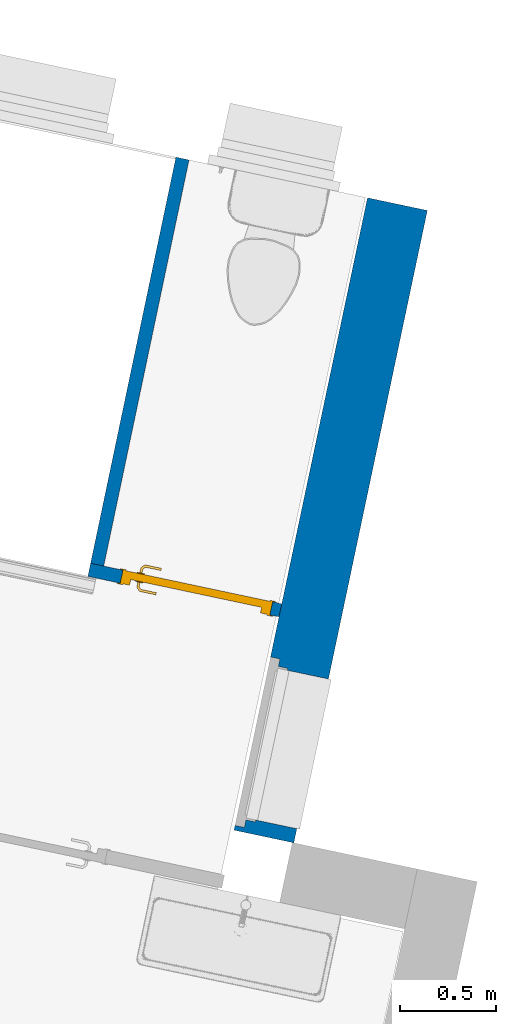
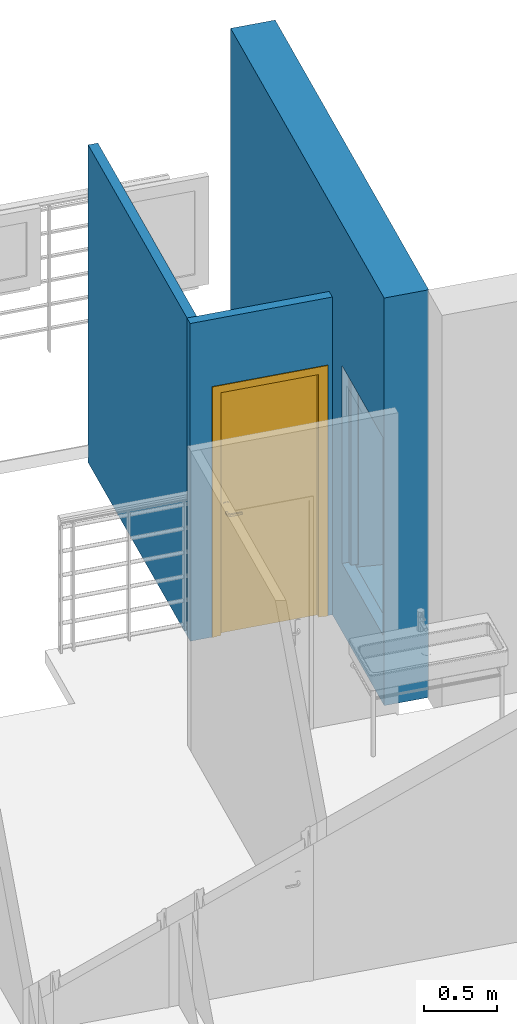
# One storey, part 10 of 18: 3 walls, 1 door, 2 openings.
"""IFC2X3 building model written with IfcOpenShell, lengths in metres."""

from ifc_helpers import new_model, entity, si_unit, converted_unit, derived_unit, direction, frame, frame_2d, origin, place, context, subcontext, project, spatial, polyline, rectangle, outline, extrude, faceted_brep, source, transform, mapped, material, material_list, layer, layer_set, layer_usage, type_object, type_shapes, element, fill, save


model = new_model("IFC2X3")

# Units and contexts
model_context = context("Model", 3, precision=1e-05, world=origin(), true_north=direction((6.12303176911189e-17, 1.0)))
body_context = subcontext(model_context, "Body", "Model", "MODEL_VIEW")
ifc_project = project(units=[si_unit("LENGTHUNIT", "METRE"), si_unit("AREAUNIT", "SQUARE_METRE"), si_unit("VOLUMEUNIT", "CUBIC_METRE"), converted_unit("PLANEANGLEUNIT", "DEGREE", entity("IfcRatioMeasure", 0.0174532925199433), si_unit("PLANEANGLEUNIT", "RADIAN"), dimensions=[0, 0, 0, 0, 0, 0, 0]), si_unit("MASSUNIT", "GRAM", prefix="KILO"), derived_unit("MASSDENSITYUNIT", [(si_unit("MASSUNIT", "GRAM", prefix="KILO"), 1), (si_unit("LENGTHUNIT", "METRE"), -3)]), si_unit("TIMEUNIT", "SECOND"), si_unit("FREQUENCYUNIT", "HERTZ"), si_unit("THERMODYNAMICTEMPERATUREUNIT", "DEGREE_CELSIUS"), derived_unit("THERMALTRANSMITTANCEUNIT", [(si_unit("MASSUNIT", "GRAM", prefix="KILO"), 1), (si_unit("THERMODYNAMICTEMPERATUREUNIT", "KELVIN"), -1), (si_unit("TIMEUNIT", "SECOND"), -3)]), derived_unit("VOLUMETRICFLOWRATEUNIT", [(si_unit("LENGTHUNIT", "METRE"), 3), (si_unit("TIMEUNIT", "SECOND"), -1)]), si_unit("ELECTRICCURRENTUNIT", "AMPERE"), si_unit("ELECTRICVOLTAGEUNIT", "VOLT"), si_unit("POWERUNIT", "WATT"), si_unit("FORCEUNIT", "NEWTON", prefix="KILO"), si_unit("ILLUMINANCEUNIT", "LUX"), si_unit("LUMINOUSFLUXUNIT", "LUMEN"), si_unit("LUMINOUSINTENSITYUNIT", "CANDELA"), derived_unit("USERDEFINED", [(si_unit("MASSUNIT", "GRAM", prefix="KILO"), -1), (si_unit("LENGTHUNIT", "METRE"), -2), (si_unit("TIMEUNIT", "SECOND"), 3), (si_unit("LUMINOUSFLUXUNIT", "LUMEN"), 1)]), derived_unit("LINEARVELOCITYUNIT", [(si_unit("LENGTHUNIT", "METRE"), 1), (si_unit("TIMEUNIT", "SECOND"), -1)]), si_unit("PRESSUREUNIT", "PASCAL"), derived_unit("USERDEFINED", [(si_unit("LENGTHUNIT", "METRE"), -2), (si_unit("MASSUNIT", "GRAM", prefix="KILO"), 1), (si_unit("TIMEUNIT", "SECOND"), -2)])], contexts=[model_context])

# Site, building, storey
site_placement = place(None, origin())
site = spatial("IfcSite", under=ifc_project, at=site_placement, Name="Default", CompositionType="ELEMENT")
building_placement = place(site_placement, origin())
building = spatial("IfcBuilding", under=site, at=building_placement, CompositionType="ELEMENT")
storey_placement = place(building_placement, frame((0.0, 0.0, 2.8)))
storey = spatial("IfcBuildingStorey", under=building, at=storey_placement, Name="ETAGE", CompositionType="ELEMENT", Elevation=2.8)

# Wall, opening
ifc_material_1 = material(Name="Enduit blanc cassé2")
ifc_layer_1 = layer(ifc_material_1, 0.02)
ifc_material_2 = material(Name="Parpaing")
ifc_layer_2 = layer(ifc_material_2, 0.2)
ifc_material_3 = material(Name="Isolant")
ifc_layer_3 = layer(ifc_material_3, 0.1)
ifc_layer_set_1 = layer_set([ifc_layer_1, ifc_layer_2, ifc_layer_3], Name="Mur de base:Ext. Parpaing 20 + Isolant 10 enduit blanc cassé")
ifc_layer_usage_1 = layer_usage(ifc_layer_set_1, "AXIS2", "NEGATIVE", 0.16)
wall_type_1 = type_object("IfcWallType", Name="Mur de base:Ext. Parpaing 20 + Isolant 10 enduit blanc cassé", PredefinedType="STANDARD", material=ifc_layer_set_1)
wall_1_placement = place(storey_placement, frame((-10.4845633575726, 84.9766816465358, 0.0), z_axis=(0.0, 0.0, 1.0), x_axis=(-0.206544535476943, -0.978437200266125, 0.0)))
wall_1 = element("IfcWallStandardCase", 1, at=wall_1_placement, inside=storey, type_object=wall_type_1, material=ifc_layer_usage_1, Name="Mur de base:Ext. Parpaing 20 + Isolant 10 enduit blanc cassé", ObjectType="Mur de base:Ext. Parpaing 20 + Isolant 10 enduit blanc cassé", context=body_context, shape_type="SweptSolid", body=[
    extrude(outline(polyline([(3.38000155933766, -0.159999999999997), (3.38030079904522, 0.151524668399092), (3.38030894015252, 0.16), (0.000307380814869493, 0.160000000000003), (0.0, -0.159999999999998), (3.38000155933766, -0.159999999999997)])), origin(), (0.0, 0.0, 1.0), 3.4),
])
opening_1_placement = place(wall_1_placement, frame((3.50668078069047, -0.457339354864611, 0.494039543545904), z_axis=(0.0, 0.0, 1.0), x_axis=(-0.206544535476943, 0.978437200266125, 0.0)))
element("IfcOpeningElement", 2, at=opening_1_placement, cuts=wall_1, Name="Mur de base:Ext. Parpaing 20 + Isolant 10 enduit blanc cassé", ObjectType="Opening", context=body_context, shape_type="Brep", body=[
    faceted_brep([(0.576179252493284, 0.902545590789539, 0.0759604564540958), (0.595747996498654, 0.898414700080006, 0.0759604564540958), (0.595747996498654, 0.898414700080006, 1.67596045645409), (1.14367282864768, 0.782749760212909, 1.67596045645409), (1.14367282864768, 0.782749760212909, 0.0), (0.576179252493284, 0.902545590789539, 0.0609604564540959), (0.0, 0.206544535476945, 0.0759604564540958), (0.332668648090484, 0.13631939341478, 0.0759604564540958), (0.332668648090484, 0.13631939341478, 1.67596045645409), (0.0, 0.206544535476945, 1.67596045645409), (0.165235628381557, 0.989294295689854, 0.0759604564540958), (0.497904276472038, 0.919069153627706, 0.0759604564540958), (0.508231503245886, 0.967991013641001, 0.0759604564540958), (0.557153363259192, 0.957663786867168, 0.0759604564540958), (0.548891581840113, 0.918526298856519, 0.0759604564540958), (0.597813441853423, 0.908199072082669, 0.0759604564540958), (0.410943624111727, 0.119795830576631, 0.0759604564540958), (0.430512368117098, 0.115664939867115, 0.0759604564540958), (0.428446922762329, 0.105880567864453, 0.0759604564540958), (0.379525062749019, 0.116207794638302, 0.0759604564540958), (0.371263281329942, 0.0770703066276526, 0.0759604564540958), (0.322341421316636, 0.0873975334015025, 0.0759604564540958), (0.165235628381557, 0.989294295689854, 1.67596045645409), (0.430512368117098, 0.11566493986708, 1.67596045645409), (0.978437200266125, 0.0, 1.67596045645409), (0.978437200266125, 0.0, 0.0), (0.410943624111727, 0.119795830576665, 0.0609604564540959), (0.508231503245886, 0.967991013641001, 1.72596045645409), (0.557153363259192, 0.957663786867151, 1.72596045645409), (0.371263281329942, 0.0770703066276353, 1.72596045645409), (0.379525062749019, 0.116207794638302, 1.68596045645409), (0.548891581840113, 0.918526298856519, 1.68596045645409), (0.597813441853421, 0.908199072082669, 1.68596045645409), (0.428446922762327, 0.105880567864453, 1.68596045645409), (0.497904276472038, 0.919069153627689, 1.67596045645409), (0.322341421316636, 0.0873975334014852, 1.72596045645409)], [[[0, 1, 2, 3, 4, 5]], [[6, 7, 8, 9]], [[10, 11, 12, 13, 14, 15, 1, 0, 16, 17, 18, 19, 20, 21, 7, 6]], [[10, 6, 9, 22]], [[3, 2, 23, 24]], [[3, 24, 25, 4]], [[4, 25, 26, 5]], [[5, 26, 16, 0]], [[12, 27, 28, 13]], [[13, 28, 29, 20, 19, 30, 31, 14]], [[14, 31, 32, 15]], [[15, 32, 33, 18, 17, 23, 2, 1]], [[11, 34, 8, 7, 21, 35, 27, 12]], [[27, 35, 29, 28]], [[30, 33, 32, 31]], [[29, 35, 21, 20]], [[19, 18, 33, 30]], [[9, 8, 34, 22]], [[24, 23, 17, 16, 26, 25]], [[22, 34, 11, 10]]]),
])

# Wall, opening, door
ifc_material_4 = material(Name="Blanc - Element de salle de bains")
ifc_layer_4 = layer(ifc_material_4, 0.07)
ifc_layer_set_2 = layer_set([ifc_layer_4], Name="Mur de base:Int.  Platre 70 mm en blanc")
ifc_layer_usage_2 = layer_usage(ifc_layer_set_2, "AXIS2", "NEGATIVE", 0.035)
wall_type_2 = type_object("IfcWallType", Name="Mur de base:Int.  Platre 70 mm en blanc", PredefinedType="STANDARD", material=ifc_layer_set_2)
wall_2_placement = place(storey_placement, frame((-12.0961303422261, 83.0640684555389, 0.0), z_axis=(0.0, 0.0, 1.0), x_axis=(0.978238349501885, -0.207484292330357, 0.0)))
wall_2 = element("IfcWallStandardCase", 3, at=wall_2_placement, inside=storey, type_object=wall_type_2, material=ifc_layer_usage_2, Name="Mur de base:Int.  Platre 70 mm en blanc", ObjectType="Mur de base:Int.  Platre 70 mm en blanc", context=body_context, shape_type="SweptSolid", body=[
    extrude(outline(polyline([(0.000137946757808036, -0.0350000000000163), (1.02181137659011, -0.0350000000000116), (1.02174413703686, 0.0349999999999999), (0.070000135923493, 0.034999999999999), (0.0, 0.0349999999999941), (0.000137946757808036, -0.0350000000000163)])), origin(), (0.0, 0.0, 1.0), 2.65),
])
opening_2_placement = place(wall_2_placement, frame((0.172749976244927, -0.035, 0.0)))
opening_2 = element("IfcOpeningElement", 4, at=opening_2_placement, cuts=wall_2, Name="Int. Simple:PP (0.73m x 2.04m):1", ObjectType="Opening", context=body_context, shape_type="SweptSolid", body=[
    extrude(rectangle(XDim=2.075, YDim=0.799999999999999, at=frame_2d((1.0375, 0.4), x_axis=(1.0, 0.0))), frame((0.0, 0.0, 0.0), z_axis=(0.0, 1.0, 0.0), x_axis=(0.0, 0.0, 1.0)), (0.0, 0.0, 1.0), 0.07),
])
ifc_material_5 = material(Name="Finition Peinture - Blanc satiné")
ifc_material_6 = material(Name="Bois - Mélaminé hêtre")
ifc_material_list_1 = material_list([ifc_material_5, ifc_material_6])
ifc_material_list_2 = material_list([ifc_material_5, ifc_material_6])
door_style = type_object("IfcDoorStyle", Name="PP (0.73m x 2.04m)", ConstructionType="NOTDEFINED", OperationType="SINGLE_SWING_RIGHT", ParameterTakesPrecedence=False, Sizeable=False, material=ifc_material_list_2)
shared_shape = source(origin(), body_context, "Body", "Brep", [
    faceted_brep([(0.795000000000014, -0.00500000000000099, 0.870000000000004), (0.795000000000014, -0.00500000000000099, 1.08), (0.785352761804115, -0.00500000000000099, 1.08399601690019), (0.775000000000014, -0.00500000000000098, 1.08535898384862), (0.764647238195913, -0.00500000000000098, 1.08399601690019), (0.755000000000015, -0.00500000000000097, 1.08), (0.755000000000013, -0.00500000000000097, 0.870000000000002), (0.764647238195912, -0.00500000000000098, 0.866003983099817), (0.775000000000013, -0.00500000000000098, 0.86464101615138), (0.785352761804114, -0.00500000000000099, 0.866003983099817), (0.795000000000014, 0.0, 1.08), (0.795000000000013, 0.0, 0.870000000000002), (0.785352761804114, 0.0, 0.866003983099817), (0.775000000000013, 0.0, 0.86464101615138), (0.764647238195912, 0.0, 0.866003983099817), (0.755000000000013, 0.0, 0.870000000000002), (0.755000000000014, 0.0, 1.08), (0.764647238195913, 0.0, 1.08399601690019), (0.775000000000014, 0.0, 1.08535898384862), (0.785352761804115, 0.0, 1.08399601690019)], [[[0, 1, 2, 3, 4, 5, 6, 7, 8, 9]], [[10, 11, 12, 13, 14, 15, 16, 17, 18, 19]], [[9, 12, 11, 0]], [[8, 13, 12, 9]], [[7, 14, 13, 8]], [[7, 6, 15, 14]], [[15, 6, 5, 16]], [[4, 17, 16, 5]], [[3, 18, 17, 4]], [[2, 19, 18, 3]], [[2, 1, 10, 19]], [[11, 10, 1, 0]]]),
    faceted_brep([(0.795000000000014, 0.039999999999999, 0.870000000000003), (0.795000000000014, 0.039999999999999, 1.08), (0.785352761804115, 0.039999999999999, 1.08399601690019), (0.775000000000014, 0.039999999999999, 1.08535898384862), (0.764647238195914, 0.039999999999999, 1.08399601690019), (0.755000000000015, 0.039999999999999, 1.08), (0.755000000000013, 0.039999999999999, 0.870000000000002), (0.764647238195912, 0.039999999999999, 0.866003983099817), (0.775000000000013, 0.039999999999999, 0.86464101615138), (0.785352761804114, 0.039999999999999, 0.866003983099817), (0.775000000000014, 0.044999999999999, 1.08535898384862), (0.785352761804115, 0.044999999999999, 1.08399601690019), (0.795000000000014, 0.044999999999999, 1.08), (0.795000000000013, 0.044999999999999, 0.870000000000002), (0.785352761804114, 0.044999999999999, 0.866003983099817), (0.775000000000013, 0.044999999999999, 0.86464101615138), (0.764647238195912, 0.044999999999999, 0.866003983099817), (0.755000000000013, 0.044999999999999, 0.870000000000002), (0.755000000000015, 0.044999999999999, 1.08), (0.764647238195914, 0.044999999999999, 1.08399601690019)], [[[0, 1, 2, 3, 4, 5, 6, 7, 8, 9]], [[10, 11, 12, 13, 14, 15, 16, 17, 18, 19]], [[4, 19, 18, 5]], [[3, 10, 19, 4]], [[2, 11, 10, 3]], [[2, 1, 12, 11]], [[13, 12, 1, 0]], [[9, 14, 13, 0]], [[8, 15, 14, 9]], [[7, 16, 15, 8]], [[7, 6, 17, 16]], [[17, 6, 5, 18]]]),
    faceted_brep([(0.772974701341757, -0.00500000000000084, 1.00778044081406), (0.777025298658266, -0.00500000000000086, 1.00778044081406), (0.781000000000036, -0.00500000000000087, 1.00699999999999), (0.781000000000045, -0.00500000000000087, 0.992999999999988), (0.777025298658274, -0.00500000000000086, 0.99221955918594), (0.772974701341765, -0.00500000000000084, 0.992219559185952), (0.768999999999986, -0.00500000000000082, 0.993000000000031), (0.768999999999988, -0.00500000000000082, 1.007), (0.777025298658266, -0.0310045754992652, 1.00778044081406), (0.781000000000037, -0.0326509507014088, 1.007), (0.772974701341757, -0.0293267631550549, 1.00778044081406), (0.759298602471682, -0.0430028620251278, 1.00778044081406), (0.760976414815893, -0.047053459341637, 1.00778044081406), (0.768999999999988, -0.0276803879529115, 1.007), (0.768999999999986, -0.0276803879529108, 0.993000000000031), (0.772974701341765, -0.0293267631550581, 0.992219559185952), (0.777025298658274, -0.0310045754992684, 0.99221955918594), (0.760976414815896, -0.0470534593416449, 0.99221955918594), (0.759298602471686, -0.0430028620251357, 0.992219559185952), (0.781000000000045, -0.0326509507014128, 0.992999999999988), (0.762622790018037, -0.051028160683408, 1.007), (0.757652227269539, -0.0390281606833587, 1.007), (0.757652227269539, -0.0390281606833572, 0.993000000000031), (0.76262279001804, -0.0510281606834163, 0.992999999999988), (0.674981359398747, -0.0510281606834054, 1.007), (0.674981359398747, -0.0470534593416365, 1.00778044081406), (0.674981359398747, -0.0430028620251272, 1.00778044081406), (0.674981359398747, -0.0390281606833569, 1.00699999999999), (0.674981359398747, -0.0390281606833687, 0.993000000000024), (0.674981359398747, -0.0430028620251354, 0.992219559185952), (0.674981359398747, -0.0470534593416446, 0.99221955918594), (0.674981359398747, -0.0510281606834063, 0.992999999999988), (0.71713998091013, -0.0450281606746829, 1.0078786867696), (0.722692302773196, -0.0510281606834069, 1.007), (0.716316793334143, -0.0390281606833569, 1.007), (0.716316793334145, -0.0390281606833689, 0.993000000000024), (0.717139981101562, -0.0450281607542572, 0.992121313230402), (0.722692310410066, -0.0510281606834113, 0.992999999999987)], [[[0, 1, 2, 3, 4, 5, 6, 7]], [[2, 1, 8, 9]], [[1, 0, 10, 11, 12, 8]], [[0, 7, 13, 10]], [[14, 13, 7, 6]], [[5, 15, 14, 6]], [[5, 4, 16, 17, 18, 15]], [[3, 19, 16, 4]], [[9, 19, 3, 2]], [[9, 8, 12, 20]], [[10, 13, 21, 11]], [[22, 21, 13, 14]], [[14, 15, 18, 22]], [[16, 19, 23, 17]], [[20, 23, 19, 9]], [[24, 25, 26, 27, 28, 29, 30, 31]], [[32, 25, 33]], [[33, 25, 24]], [[33, 20, 12]], [[11, 34, 32]], [[34, 11, 21]], [[27, 26, 34]], [[32, 26, 25]], [[32, 34, 26]], [[32, 33, 12]], [[11, 32, 12]], [[21, 22, 35, 28, 27, 34]], [[36, 29, 35]], [[30, 36, 37]], [[18, 35, 22]], [[29, 28, 35]], [[30, 37, 31]], [[37, 17, 23]], [[36, 17, 37]], [[36, 18, 17]], [[36, 35, 18]], [[29, 36, 30]], [[23, 20, 33, 24, 31, 37]]]),
    faceted_brep([(0.772974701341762, 0.0449999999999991, 0.992219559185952), (0.777025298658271, 0.0449999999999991, 0.99221955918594), (0.781000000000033, 0.0449999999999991, 0.992999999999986), (0.781000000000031, 0.0449999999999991, 1.007), (0.777025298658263, 0.0449999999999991, 1.00778044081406), (0.772974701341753, 0.0449999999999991, 1.00778044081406), (0.768999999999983, 0.0449999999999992, 1.007), (0.768999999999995, 0.0449999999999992, 0.993000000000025), (0.768999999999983, 0.0674852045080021, 1.007), (0.768999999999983, 0.0674852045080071, 0.993000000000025), (0.772974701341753, 0.0691315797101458, 1.00778044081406), (0.777025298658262, 0.070809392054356, 1.00778044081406), (0.760838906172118, 0.0869957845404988, 1.00778044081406), (0.759161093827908, 0.0829451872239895, 1.00778044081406), (0.781000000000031, 0.0724557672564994, 1.007), (0.781000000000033, 0.0724557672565, 0.992999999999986), (0.777025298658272, 0.0708093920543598, 0.99221955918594), (0.772974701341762, 0.0691315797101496, 0.992219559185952), (0.759161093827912, 0.0829451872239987, 0.992219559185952), (0.760838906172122, 0.0869957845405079, 0.99221955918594), (0.757514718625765, 0.0789704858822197, 1.007), (0.757514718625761, 0.0789704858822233, 0.993000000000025), (0.762485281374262, 0.0909704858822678, 1.007), (0.762485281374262, 0.0909704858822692, 0.992999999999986), (0.674954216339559, 0.0829451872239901, 1.00778044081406), (0.674954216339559, 0.0869957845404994, 1.00778044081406), (0.674954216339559, 0.0909704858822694, 1.007), (0.674954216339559, 0.0909704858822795, 0.992999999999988), (0.674954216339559, 0.0869957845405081, 0.99221955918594), (0.674954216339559, 0.0829451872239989, 0.992219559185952), (0.674954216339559, 0.07897048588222, 0.993000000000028), (0.674954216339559, 0.0789704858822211, 1.007), (0.716234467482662, 0.0789704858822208, 1.007), (0.716234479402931, 0.0789704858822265, 0.993000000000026), (0.717057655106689, 0.0849704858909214, 1.0078786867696), (0.722554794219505, 0.0909704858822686, 1.007), (0.722554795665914, 0.0909704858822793, 0.992999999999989), (0.717057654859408, 0.0849704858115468, 0.992121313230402)], [[[0, 1, 2, 3, 4, 5, 6, 7]], [[8, 9, 7, 6]], [[5, 10, 8, 6]], [[5, 4, 11, 12, 13, 10]], [[3, 14, 11, 4]], [[14, 3, 2, 15]], [[2, 1, 16, 15]], [[1, 0, 17, 18, 19, 16]], [[0, 7, 9, 17]], [[20, 21, 9, 8]], [[8, 10, 13, 20]], [[14, 22, 12, 11]], [[23, 22, 14, 15]], [[15, 16, 19, 23]], [[17, 9, 21, 18]], [[24, 25, 26, 27, 28, 29, 30, 31]], [[21, 20, 32, 31, 30, 33]], [[34, 24, 32]], [[25, 34, 35]], [[13, 32, 20]], [[24, 31, 32]], [[25, 35, 26]], [[35, 12, 22]], [[34, 12, 35]], [[34, 13, 12]], [[34, 32, 13]], [[24, 34, 25]], [[22, 23, 36, 27, 26, 35]], [[37, 28, 36]], [[36, 28, 27]], [[36, 23, 19]], [[18, 33, 37]], [[33, 18, 21]], [[30, 29, 33]], [[37, 29, 28]], [[37, 33, 29]], [[37, 36, 19]], [[18, 37, 19]]]),
    faceted_brep([(0.835000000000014, 0.0400000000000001, 2.04), (0.835000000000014, 0.0400000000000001, 0.0), (0.105000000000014, 0.0400000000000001, 0.0), (0.105000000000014, 0.0400000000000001, 2.04), (0.835000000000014, 0.0, 2.04), (0.105000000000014, 0.0, 2.04), (0.105000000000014, 0.0, 0.0), (0.835000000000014, 0.0, 0.0)], [[[0, 1, 2, 3]], [[4, 5, 6, 7]], [[3, 5, 4, 0]], [[2, 6, 5, 3]], [[1, 7, 6, 2]], [[0, 4, 7, 1]]]),
    faceted_brep([(0.870000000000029, 0.0, 0.0), (0.835000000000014, 0.0, 0.0), (0.835000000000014, 0.04, 0.0), (0.820000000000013, 0.04, 0.0), (0.820000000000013, 0.0699999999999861, 0.0), (0.870000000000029, 0.0699999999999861, 0.0), (0.870000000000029, 0.0699999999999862, 2.07500000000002), (0.870000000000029, 0.0, 2.07500000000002), (0.820000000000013, 0.0699999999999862, 2.025), (0.120000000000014, 0.0699999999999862, 2.025), (0.120000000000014, 0.0699999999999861, 0.0), (0.0699999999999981, 0.0699999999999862, 0.0), (0.0699999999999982, 0.0699999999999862, 2.07500000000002), (0.820000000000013, 0.04, 2.025), (0.835000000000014, 0.04, 2.04), (0.105000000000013, 0.04, 2.04), (0.105000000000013, 0.04, 0.0), (0.120000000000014, 0.04, 0.0), (0.120000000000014, 0.04, 2.025), (0.835000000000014, 0.0, 2.04), (0.0699999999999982, 0.0, 2.07500000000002), (0.0699999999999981, 0.0, 0.0), (0.105000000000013, 0.0, 0.0), (0.105000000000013, 0.0, 2.04)], [[[0, 1, 2, 3, 4, 5]], [[5, 6, 7, 0]], [[4, 8, 9, 10, 11, 12, 6, 5]], [[3, 13, 8, 4]], [[2, 14, 15, 16, 17, 18, 13, 3]], [[1, 19, 14, 2]], [[0, 7, 20, 21, 22, 23, 19, 1]], [[12, 11, 21, 20]], [[21, 11, 10, 17, 16, 22]], [[18, 17, 10, 9]], [[23, 22, 16, 15]], [[6, 12, 20, 7]], [[13, 18, 9, 8]], [[19, 23, 15, 14]]]),
    faceted_brep([(0.855000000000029, 0.0699999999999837, 0.0), (0.855000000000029, 0.0749999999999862, 0.0), (0.885000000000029, 0.0749999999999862, 0.0), (0.885000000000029, 0.0699999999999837, 0.0), (0.885000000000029, 0.0699999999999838, 2.09000000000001), (0.0550000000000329, 0.0699999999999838, 2.09000000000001), (0.055000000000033, 0.0699999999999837, 0.0), (0.0850000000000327, 0.0699999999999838, 0.0), (0.0850000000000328, 0.0699999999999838, 2.06000000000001), (0.855000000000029, 0.0699999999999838, 2.06000000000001), (0.885000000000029, 0.0749999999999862, 2.09000000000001), (0.855000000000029, 0.0749999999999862, 2.06000000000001), (0.0850000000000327, 0.0749999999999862, 2.06000000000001), (0.0850000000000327, 0.0749999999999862, 0.0), (0.055000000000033, 0.0749999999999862, 0.0), (0.0550000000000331, 0.0749999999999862, 2.09000000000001)], [[[0, 1, 2, 3]], [[3, 4, 5, 6, 7, 8, 9, 0]], [[2, 10, 4, 3]], [[1, 11, 12, 13, 14, 15, 10, 2]], [[0, 9, 11, 1]], [[7, 6, 14, 13]], [[8, 7, 13, 12]], [[15, 14, 6, 5]], [[10, 15, 5, 4]], [[9, 8, 12, 11]]]),
    faceted_brep([(0.885000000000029, -0.005, 0.0), (0.885000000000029, -0.005, 2.09000000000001), (0.0550000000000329, -0.005, 2.09000000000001), (0.055000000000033, -0.005, 0.0), (0.0850000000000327, -0.005, 0.0), (0.0850000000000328, -0.005, 2.06000000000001), (0.855000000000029, -0.005, 2.06000000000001), (0.855000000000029, -0.005, 0.0), (0.885000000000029, 0.0, 0.0), (0.885000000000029, 0.0, 2.09000000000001), (0.855000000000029, 0.0, 0.0), (0.855000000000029, 0.0, 2.06000000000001), (0.0850000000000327, 0.0, 2.06000000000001), (0.0850000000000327, 0.0, 0.0), (0.055000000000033, 0.0, 0.0), (0.0550000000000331, 0.0, 2.09000000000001)], [[[0, 1, 2, 3, 4, 5, 6, 7]], [[8, 9, 1, 0]], [[10, 11, 12, 13, 14, 15, 9, 8]], [[7, 6, 11, 10]], [[5, 4, 13, 12]], [[15, 14, 3, 2]], [[9, 15, 2, 1]], [[6, 5, 12, 11]], [[4, 3, 14, 13]], [[7, 10, 8, 0]]]),
])
type_shapes(door_style, [shared_shape])
door_placement = place(opening_2_placement, frame((0.870000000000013, 0.0699999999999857, 0.0), z_axis=(0.0, 0.0, 1.0), x_axis=(-1.0, 0.0, 0.0)))
door = element("IfcDoor", 5, at=door_placement, inside=storey, type_object=door_style, material=ifc_material_list_1, Name="Int. Simple:PP (0.73m x 2.04m)", ObjectType="Int. Simple:PP (0.73m x 2.04m)", OverallHeight=2.075, OverallWidth=0.8, context=body_context, shape_type="MappedRepresentation", body=[
    mapped(shared_shape, transform((0.0, 0.0, 0.0), scale=1.0)),
])
fill(opening_2, door)

# Wall
ifc_layer_usage_3 = layer_usage(ifc_layer_set_2, "AXIS2", "NEGATIVE", 0.035)
wall_3_placement = place(storey_placement, frame((-12.0546441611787, 83.0909773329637, 0.0), z_axis=(0.0, 0.0, 1.0), x_axis=(0.205556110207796, 0.97864533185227, 0.0)))
element("IfcWallStandardCase", 6, at=wall_3_placement, inside=storey, type_object=wall_type_2, material=ifc_layer_usage_3, Name="Mur de base:Int.  Platre 70 mm en blanc", ObjectType="Mur de base:Int.  Platre 70 mm en blanc", context=body_context, shape_type="SweptSolid", body=[
    extrude(outline(polyline([(2.17021693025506, -0.0349999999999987), (2.17035487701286, 0.0350000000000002), (0.000137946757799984, 0.0350000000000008), (0.0, -0.0350000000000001), (2.17021693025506, -0.0349999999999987)])), origin(), (0.0, 0.0, 1.0), 2.65),
])

save(model, "model.ifc")
